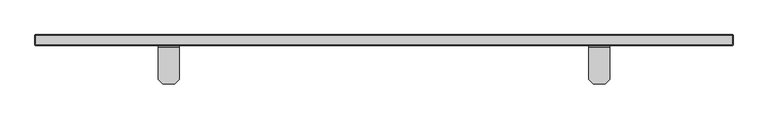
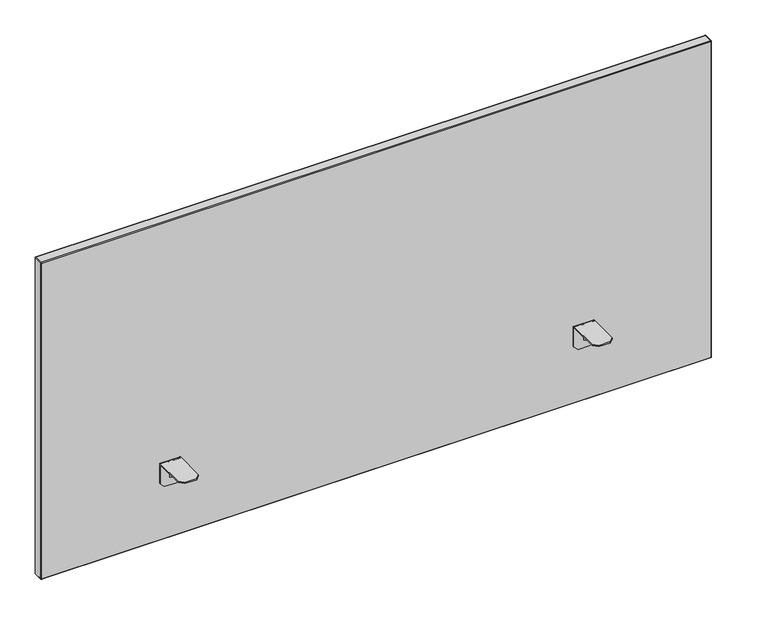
"""IFC4 building model written with IfcOpenShell, lengths in millimetres: furniture geometry, FREZZA_POP AD_Screen-for desk_Fabric : W1600 mm Structure_ZGBI - Embossed White & Finishing_D-King flex_XFGC."""

from ifc_helpers import new_model, si_unit, frame, origin, place, context, project, spatial, polyline, circle_curve, ellipse_curve, source, transform, mapped, element, save
from ifc_brep_helpers import plane_surface, cylinder_surface, revolved_surface, advanced_brep


def furniture_d0544c74(model_context):
    return source(origin(), model_context, "Body", "AdvancedBrep", [
        advanced_brep(
        [(1457.5, -8.0540949, 725.0), (1457.5, -81.55, 725.0), (1457.5, -81.55, 722.0), (1457.5, -8.0035457, 722.0), (1457.5, -6.55, 720.5464543), (1457.5, -6.55, 673.0), (1457.5, -3.55, 673.0), (1457.5, -3.55, 720.4959051), (1409.5, -8.0035457, 722.0), (1409.5, -81.55, 722.0), (1409.5, -81.55, 725.0), (1409.5, -8.0540949, 725.0), (1409.5, -3.55, 720.4959051), (1409.5, -3.55, 673.0), (1409.5, -6.55, 673.0), (1409.5, -6.55, 720.5464543), (1419.5, -91.55, 725.0), (1447.5, -91.55, 725.0), (1447.5, -3.55, 663.0), (1419.5, -3.55, 663.0), (1447.5, -6.55, 663.0), (1419.5, -6.55, 663.0), (1435.0, -6.55, 720.5464543), (1435.0, -6.55, 682.0), (1432.0, -6.55, 682.0), (1432.0, -6.55, 720.5464543), (1432.0, -8.0035457, 722.0), (1435.0, -8.0035457, 722.0), (1447.5, -91.55, 722.0), (1419.5, -91.55, 722.0), (1432.0, -69.55, 722.0), (1435.0, -69.55, 722.0)],
        [
            (0, 1),
            (1, 2),
            (2, 3),
            (3, 4, circle_curve(frame((1457.5, -8.0035457, 720.5464543), z_axis=(-1.0, 0.0, 0.0), x_axis=(0.0, -1.0, 0.0)), 1.4535457)),
            (4, 5),
            (5, 6),
            (6, 7),
            (7, 0, circle_curve(frame((1457.5, -8.0540949, 720.4959051), z_axis=(1.0, 0.0, 0.0), x_axis=(0.0, -1.0, 0.0)), 4.5040949)),
            (8, 9),
            (9, 10),
            (10, 11),
            (11, 12, circle_curve(frame((1409.5, -8.0540949, 720.4959051), z_axis=(-1.0, 0.0, 0.0), x_axis=(0.0, -1.0, 0.0)), 4.5040949)),
            (12, 13),
            (13, 14),
            (14, 15),
            (15, 8, circle_curve(frame((1409.5, -8.0035457, 720.5464543), z_axis=(1.0, 0.0, 0.0), x_axis=(0.0, -1.0, 0.0)), 1.4535457)),
            (10, 16),
            (16, 17),
            (17, 1),
            (0, 11),
            (7, 12),
            (6, 18),
            (18, 19),
            (19, 13),
            (18, 20),
            (20, 21),
            (21, 19),
            (4, 22),
            (22, 23),
            (23, 24),
            (24, 25),
            (25, 15),
            (14, 21),
            (20, 5),
            (25, 26, circle_curve(frame((1432.0, -8.0035457, 720.5464543), z_axis=(1.0, 0.0, 0.0), x_axis=(0.0, -1.0, 0.0)), 1.4535457)),
            (26, 8),
            (3, 27),
            (27, 22, circle_curve(frame((1435.0, -8.0035457, 720.5464543), z_axis=(-1.0, 0.0, 0.0), x_axis=(0.0, -1.0, 0.0)), 1.4535457)),
            (2, 28),
            (28, 29),
            (29, 9),
            (26, 30),
            (30, 31),
            (31, 27),
            (16, 29),
            (28, 17),
            (31, 23),
            (24, 30),
        ],
        [
            plane_surface(frame((1457.5, 1478.3708958, 725.0), z_axis=(1.0, 0.0, 0.0), x_axis=(0.0, 1.0, 0.0))),
            plane_surface(frame((1409.5, 1478.3708958, 725.0), z_axis=(-1.0, 0.0, 0.0), x_axis=(0.0, -1.0, 0.0))),
            plane_surface(frame((1457.5, -91.55, 725.0), z_axis=(0.0, 0.0, 1.0), x_axis=(-1.0, 0.0, 0.0))),
            cylinder_surface(frame((1409.5, -8.0540949, 720.4959051), z_axis=(1.0, 0.0, 0.0), x_axis=(0.0, -1.0, 0.0)), 4.5040949),
            plane_surface(frame((1457.5, -3.55, 720.4959051), z_axis=(0.0, 1.0, 0.0), x_axis=(-1.0, 0.0, 0.0))),
            plane_surface(frame((1457.5, -3.55, 663.0), z_axis=(0.0, 0.0, -1.0), x_axis=(-1.0, 0.0, 0.0))),
            plane_surface(frame((1457.5, -6.55, 663.0), z_axis=(0.0, -1.0, 0.0), x_axis=(-1.0, 0.0, 0.0))),
            revolved_surface(polyline([(1409.5, -9.4570914, 720.5464543), (1432.0, -9.4570914, 720.5464543)]), (1409.5, -8.0035457, 720.5464543), (-1.0, 0.0, 0.0)),
            revolved_surface(polyline([(1435.0, -9.4570914, 720.5464543), (1457.5, -9.4570914, 720.5464543)]), (1409.5, -8.0035457, 720.5464543), (-1.0, 0.0, 0.0)),
            plane_surface(frame((1457.5, -8.0035457, 722.0), z_axis=(0.0, 0.0, -1.0), x_axis=(-1.0, 0.0, 0.0))),
            plane_surface(frame((1457.5, -91.55, 722.0), z_axis=(0.0, -1.0, 0.0), x_axis=(-1.0, 0.0, 0.0))),
            plane_surface(frame((1457.5, -3.55, 673.0), z_axis=(0.7071067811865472, 0.0, -0.7071067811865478), x_axis=(0.0, -1.0, 0.0))),
            plane_surface(frame((1419.5, -3.55, 663.0), z_axis=(-0.7071067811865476, 0.0, -0.7071067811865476), x_axis=(0.0, -1.0, 0.0))),
            plane_surface(frame((1447.5, -91.55, 725.0), z_axis=(0.7071067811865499, -0.7071067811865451, 0.0), x_axis=(0.0, 0.0, -1.0))),
            plane_surface(frame((1409.5, -81.55, 725.0), z_axis=(-0.7071067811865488, -0.7071067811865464, 0.0), x_axis=(0.0, 0.0, -1.0))),
            plane_surface(frame((1435.0, -69.55, 722.0), z_axis=(1.0000000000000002, 0.0, 0.0), x_axis=(0.0, -0.8442128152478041, 0.5360081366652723))),
            plane_surface(frame((1432.0, -69.55, 722.0), z_axis=(-1.0000000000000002, 0.0, 0.0), x_axis=(0.0, 0.8442128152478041, -0.5360081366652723))),
            plane_surface(frame((1435.0, -6.55, 682.0), z_axis=(0.0, -0.5360081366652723, -0.8442128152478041), x_axis=(-1.0, 0.0, 0.0))),
        ],
        [
            (0, [[1, 2, 3, 4, 5, 6, 7, 8]]),
            (1, [[9, 10, 11, 12, 13, 14, 15, 16]]),
            (2, [[-11, 17, 18, 19, -1, 20]]),
            (3, [[21, -12, -20, -8]]),
            (4, [[-7, 22, 23, 24, -13, -21]]),
            (5, [[25, 26, 27, -23]]),
            (6, [[28, 29, 30, 31, 32, -15, 33, -26, 34, -5]]),
            (7, [[-32, 35, 36, -16]]),
            (8, [[37, 38, -28, -4]]),
            (9, [[39, 40, 41, -9, -36, 42, 43, 44, -37, -3]]),
            (10, [[45, -40, 46, -18]]),
            (11, [[-34, -25, -22, -6]]),
            (12, [[-24, -27, -33, -14]]),
            (13, [[-19, -46, -39, -2]]),
            (14, [[-41, -45, -17, -10]]),
            (15, [[-29, -38, -44, 47]]),
            (16, [[-42, -35, -31, 48]]),
            (17, [[-43, -48, -30, -47]]),
        ],
    ),
        advanced_brep(
        [(422.5, -8.0540949, 725.0), (422.5, -3.55, 720.4959051), (422.5, -3.55, 673.0), (422.5, -6.55, 673.0), (422.5, -6.55, 720.5464543), (422.5, -8.0035457, 722.0), (422.5, -81.55, 722.0), (422.5, -81.55, 725.0), (470.5, -8.0035457, 722.0), (470.5, -6.55, 720.5464543), (470.5, -6.55, 673.0), (470.5, -3.55, 673.0), (470.5, -3.55, 720.4959051), (470.5, -8.0540949, 725.0), (470.5, -81.55, 725.0), (470.5, -81.55, 722.0), (432.5, -91.55, 725.0), (460.5, -91.55, 725.0), (460.5, -3.55, 663.0), (432.5, -3.55, 663.0), (460.5, -6.55, 663.0), (432.5, -6.55, 663.0), (448.0, -6.55, 720.5464543), (448.0, -6.55, 682.0), (445.0, -6.55, 682.0), (445.0, -6.55, 720.5464543), (445.0, -8.0035457, 722.0), (448.0, -8.0035457, 722.0), (445.0, -69.55, 722.0), (448.0, -69.55, 722.0), (460.5, -91.55, 722.0), (432.5, -91.55, 722.0)],
        [
            (0, 1, circle_curve(frame((422.5, -8.0540949, 720.4959051), z_axis=(-1.0, 0.0, 0.0), x_axis=(0.0, -1.0, 0.0)), 4.5040949)),
            (1, 2),
            (2, 3),
            (3, 4),
            (4, 5, circle_curve(frame((422.5, -8.0035457, 720.5464543), z_axis=(1.0, 0.0, 0.0), x_axis=(0.0, -1.0, 0.0)), 1.4535457)),
            (5, 6),
            (6, 7),
            (7, 0),
            (8, 9, circle_curve(frame((470.5, -8.0035457, 720.5464543), z_axis=(-1.0, 0.0, 0.0), x_axis=(0.0, -1.0, 0.0)), 1.4535457)),
            (9, 10),
            (10, 11),
            (11, 12),
            (12, 13, circle_curve(frame((470.5, -8.0540949, 720.4959051), z_axis=(1.0, 0.0, 0.0), x_axis=(0.0, -1.0, 0.0)), 4.5040949)),
            (13, 14),
            (14, 15),
            (15, 8),
            (13, 0),
            (7, 16),
            (16, 17),
            (17, 14),
            (12, 1),
            (11, 18),
            (18, 19),
            (19, 2),
            (18, 20),
            (20, 21),
            (21, 19),
            (3, 21),
            (20, 10),
            (9, 22),
            (22, 23),
            (23, 24),
            (24, 25),
            (25, 4),
            (25, 26, circle_curve(frame((445.0, -8.0035457, 720.5464543), z_axis=(1.0, 0.0, 0.0), x_axis=(0.0, -1.0, 0.0)), 1.4535457)),
            (26, 5),
            (8, 27),
            (27, 22, circle_curve(frame((448.0, -8.0035457, 720.5464543), z_axis=(-1.0, 0.0, 0.0), x_axis=(0.0, -1.0, 0.0)), 1.4535457)),
            (26, 28),
            (28, 29),
            (29, 27),
            (15, 30),
            (30, 31),
            (31, 6),
            (16, 31),
            (30, 17),
            (24, 28),
            (29, 23),
        ],
        [
            plane_surface(frame((422.5, 1478.3708958, 725.0), z_axis=(-1.0, 0.0, 0.0), x_axis=(0.0, 1.0, 0.0))),
            plane_surface(frame((470.5, 1478.3708958, 725.0), z_axis=(1.0, 0.0, 0.0), x_axis=(0.0, -1.0, 0.0))),
            plane_surface(frame((422.5, -91.55, 725.0), z_axis=(0.0, 0.0, 1.0), x_axis=(1.0, 0.0, 0.0))),
            cylinder_surface(frame((470.5, -8.0540949, 720.4959051), z_axis=(-1.0, 0.0, 0.0), x_axis=(0.0, -1.0, 0.0)), 4.5040949),
            plane_surface(frame((422.5, -3.55, 720.4959051), z_axis=(0.0, 1.0, 0.0), x_axis=(1.0, 0.0, 0.0))),
            plane_surface(frame((422.5, -3.55, 663.0), z_axis=(0.0, 0.0, -1.0), x_axis=(1.0, 0.0, 0.0))),
            plane_surface(frame((422.5, -6.55, 663.0), z_axis=(0.0, -1.0, 0.0), x_axis=(1.0, 0.0, 0.0))),
            revolved_surface(polyline([(445.0, -9.4570914, 720.5464543), (422.5, -9.4570914, 720.5464543)]), (470.5, -8.0035457, 720.5464543), (1.0, 0.0, 0.0)),
            revolved_surface(polyline([(470.5, -9.4570914, 720.5464543), (448.0, -9.4570914, 720.5464543)]), (470.5, -8.0035457, 720.5464543), (1.0, 0.0, 0.0)),
            plane_surface(frame((422.5, -8.0035457, 722.0), z_axis=(0.0, 0.0, -1.0), x_axis=(1.0, 0.0, 0.0))),
            plane_surface(frame((422.5, -91.55, 722.0), z_axis=(0.0, -1.0, 0.0), x_axis=(1.0, 0.0, 0.0))),
            plane_surface(frame((422.5, -3.55, 673.0), z_axis=(-0.7071067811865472, 0.0, -0.7071067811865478), x_axis=(0.0, -1.0, 0.0))),
            plane_surface(frame((460.5, -3.55, 663.0), z_axis=(0.7071067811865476, 0.0, -0.7071067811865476), x_axis=(0.0, -1.0, 0.0))),
            plane_surface(frame((432.5, -91.55, 725.0), z_axis=(-0.7071067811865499, -0.7071067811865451, 0.0), x_axis=(0.0, 0.0, -1.0))),
            plane_surface(frame((470.5, -81.55, 725.0), z_axis=(0.7071067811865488, -0.7071067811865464, 0.0), x_axis=(0.0, 0.0, -1.0))),
            plane_surface(frame((445.0, -69.55, 722.0), z_axis=(-1.0000000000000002, 0.0, 0.0), x_axis=(0.0, -0.8442128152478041, 0.5360081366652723))),
            plane_surface(frame((448.0, -69.55, 722.0), z_axis=(1.0000000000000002, 0.0, 0.0), x_axis=(0.0, 0.8442128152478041, -0.5360081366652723))),
            plane_surface(frame((445.0, -6.55, 682.0), z_axis=(0.0, -0.5360081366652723, -0.8442128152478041), x_axis=(1.0, 0.0, 0.0))),
        ],
        [
            (0, [[1, 2, 3, 4, 5, 6, 7, 8]]),
            (1, [[9, 10, 11, 12, 13, 14, 15, 16]]),
            (2, [[17, -8, 18, 19, 20, -14]]),
            (3, [[-1, -17, -13, 21]]),
            (4, [[-21, -12, 22, 23, 24, -2]]),
            (5, [[-23, 25, 26, 27]]),
            (6, [[-4, 28, -26, 29, -10, 30, 31, 32, 33, 34]]),
            (7, [[-5, -34, 35, 36]]),
            (8, [[-9, 37, 38, -30]]),
            (9, [[-6, -36, 39, 40, 41, -37, -16, 42, 43, 44]]),
            (10, [[-19, 45, -43, 46]]),
            (11, [[-3, -24, -27, -28]]),
            (12, [[-11, -29, -25, -22]]),
            (13, [[-7, -44, -45, -18]]),
            (14, [[-15, -20, -46, -42]]),
            (15, [[47, -39, -35, -33]]),
            (16, [[48, -31, -38, -41]]),
            (17, [[-47, -32, -48, -40]]),
        ],
    ),
        advanced_brep(
        [(1738.0, 21.45, 1326.0), (1738.0, 21.45, 530.0), (142.0, 21.45, 530.0), (142.0, 21.45, 1326.0), (1738.0, -3.55, 530.0), (1738.0, -3.55, 1326.0), (142.0, -3.55, 1326.0), (142.0, -3.55, 530.0), (1738.0, -1.55, 528.0), (142.0, -1.55, 528.0), (142.0, 4.45, 528.0), (1738.0, 4.45, 528.0), (142.0, 19.45, 528.0), (1738.0, 19.45, 528.0), (1738.0, 13.45, 528.0), (142.0, 13.45, 528.0), (140.0, 19.45, 530.0), (140.0, -1.55, 530.0), (140.0, -1.55, 1326.0), (140.0, 19.45, 1326.0), (142.0, 19.45, 1328.0), (142.0, -1.55, 1328.0), (1738.0, -1.55, 1328.0), (1738.0, 19.45, 1328.0), (1740.0, 19.45, 1326.0), (1740.0, -1.55, 1326.0), (1740.0, -1.55, 530.0), (1740.0, 19.45, 530.0), (140.5857864, 20.8642136, 1327.4142136), (140.5857864, -2.9642136, 1327.4142136), (140.5857864, 20.8642136, 528.5857864), (140.5857864, -2.9642136, 528.5857864), (1739.4142136, 20.8642136, 1327.4142136), (1739.4142136, -2.9642136, 1327.4142136), (1739.4142136, -2.9642136, 528.5857864), (1739.4142136, 20.8642136, 528.5857864), (142.0, 4.45, 532.0), (142.0, 13.45, 532.0), (1738.0, 4.45, 532.0), (1738.0, 13.45, 532.0)],
        [
            (0, 1),
            (1, 2),
            (2, 3),
            (3, 0),
            (4, 5),
            (5, 6),
            (6, 7),
            (7, 4),
            (8, 9),
            (9, 10),
            (10, 11),
            (11, 8),
            (12, 13),
            (13, 14),
            (14, 15),
            (15, 12),
            (16, 17),
            (17, 18),
            (18, 19),
            (19, 16),
            (20, 21),
            (21, 22),
            (22, 23),
            (23, 20),
            (24, 25),
            (25, 26),
            (26, 27),
            (27, 24),
            (20, 28, ellipse_curve(frame((142.0, 19.45, 1326.0), z_axis=(-0.7071067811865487, -0.7071067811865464, 0.0), x_axis=(-0.7071067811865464, 0.7071067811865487, 0.0)), 2.8284271, 2.0)),
            (28, 19, ellipse_curve(frame((142.0, 19.45, 1326.0), z_axis=(0.0, -0.7071067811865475, 0.7071067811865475), x_axis=(0.0, 0.7071067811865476, 0.7071067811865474)), 2.8284271, 2.0)),
            (18, 29, ellipse_curve(frame((142.0, -1.55, 1326.0), z_axis=(0.0, 0.7071067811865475, 0.7071067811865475), x_axis=(0.0, 0.7071067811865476, -0.7071067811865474)), 2.8284271, 2.0)),
            (29, 21, ellipse_curve(frame((142.0, -1.55, 1326.0), z_axis=(-0.7071067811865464, 0.7071067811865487, 0.0), x_axis=(0.7071067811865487, 0.7071067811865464, 0.0)), 2.8284271, 2.0)),
            (16, 30, ellipse_curve(frame((142.0, 19.45, 530.0), z_axis=(0.0, -0.7071067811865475, -0.7071067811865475), x_axis=(0.0, 0.7071067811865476, -0.7071067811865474)), 2.8284271, 2.0)),
            (30, 12, ellipse_curve(frame((142.0, 19.45, 530.0), z_axis=(-0.7071067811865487, -0.7071067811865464, 0.0), x_axis=(-0.7071067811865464, 0.7071067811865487, 0.0)), 2.8284271, 2.0)),
            (15, 10),
            (9, 31, ellipse_curve(frame((142.0, -1.55, 530.0), z_axis=(-0.7071067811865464, 0.7071067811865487, 0.0), x_axis=(0.7071067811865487, 0.7071067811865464, 0.0)), 2.8284271, 2.0)),
            (31, 17, ellipse_curve(frame((142.0, -1.55, 530.0), z_axis=(0.0, 0.7071067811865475, -0.7071067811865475), x_axis=(0.0, 0.7071067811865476, 0.7071067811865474)), 2.8284271, 2.0)),
            (24, 32, ellipse_curve(frame((1738.0, 19.45, 1326.0), z_axis=(0.0, -0.7071067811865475, 0.7071067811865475), x_axis=(0.0, 0.7071067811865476, 0.7071067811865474)), 2.8284271, 2.0)),
            (32, 23, ellipse_curve(frame((1738.0, 19.45, 1326.0), z_axis=(0.7071067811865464, -0.7071067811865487, 0.0), x_axis=(0.7071067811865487, 0.7071067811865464, 0.0)), 2.8284271, 2.0)),
            (22, 33, ellipse_curve(frame((1738.0, -1.55, 1326.0), z_axis=(0.7071067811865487, 0.7071067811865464, 0.0), x_axis=(-0.7071067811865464, 0.7071067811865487, 0.0)), 2.8284271, 2.0)),
            (33, 25, ellipse_curve(frame((1738.0, -1.55, 1326.0), z_axis=(0.0, 0.7071067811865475, 0.7071067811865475), x_axis=(0.0, 0.7071067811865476, -0.7071067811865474)), 2.8284271, 2.0)),
            (26, 34, ellipse_curve(frame((1738.0, -1.55, 530.0), z_axis=(0.0, 0.7071067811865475, -0.7071067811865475), x_axis=(0.0, 0.7071067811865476, 0.7071067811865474)), 2.8284271, 2.0)),
            (34, 8, ellipse_curve(frame((1738.0, -1.55, 530.0), z_axis=(0.7071067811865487, 0.7071067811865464, 0.0), x_axis=(-0.7071067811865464, 0.7071067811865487, 0.0)), 2.8284271, 2.0)),
            (11, 14),
            (13, 35, ellipse_curve(frame((1738.0, 19.45, 530.0), z_axis=(0.7071067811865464, -0.7071067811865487, 0.0), x_axis=(0.7071067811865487, 0.7071067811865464, 0.0)), 2.8284271, 2.0)),
            (35, 27, ellipse_curve(frame((1738.0, 19.45, 530.0), z_axis=(0.0, -0.7071067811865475, -0.7071067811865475), x_axis=(0.0, 0.7071067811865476, -0.7071067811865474)), 2.8284271, 2.0)),
            (4, 34, ellipse_curve(frame((1738.0, -1.55, 530.0), z_axis=(0.7071067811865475, 0.0, 0.7071067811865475), x_axis=(0.7071067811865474, 0.0, -0.7071067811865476)), 2.8284271, 2.0)),
            (33, 5, ellipse_curve(frame((1738.0, -1.55, 1326.0), z_axis=(0.7071067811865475, 0.0, -0.7071067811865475), x_axis=(-0.7071067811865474, 0.0, -0.7071067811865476)), 2.8284271, 2.0)),
            (35, 1, ellipse_curve(frame((1738.0, 19.45, 530.0), z_axis=(0.7071067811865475, 0.0, 0.7071067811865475), x_axis=(0.7071067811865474, 0.0, -0.7071067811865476)), 2.8284271, 2.0)),
            (0, 32, ellipse_curve(frame((1738.0, 19.45, 1326.0), z_axis=(0.7071067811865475, 0.0, -0.7071067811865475), x_axis=(-0.7071067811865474, 0.0, -0.7071067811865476)), 2.8284271, 2.0)),
            (7, 31, ellipse_curve(frame((142.0, -1.55, 530.0), z_axis=(0.7071067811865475, 0.0, -0.7071067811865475), x_axis=(-0.7071067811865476, 0.0, -0.7071067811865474)), 2.8284271, 2.0)),
            (30, 2, ellipse_curve(frame((142.0, 19.45, 530.0), z_axis=(0.7071067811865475, 0.0, -0.7071067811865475), x_axis=(-0.7071067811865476, 0.0, -0.7071067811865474)), 2.8284271, 2.0)),
            (6, 29, ellipse_curve(frame((142.0, -1.55, 1326.0), z_axis=(-0.7071067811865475, 0.0, -0.7071067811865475), x_axis=(-0.7071067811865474, 0.0, 0.7071067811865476)), 2.8284271, 2.0)),
            (28, 3, ellipse_curve(frame((142.0, 19.45, 1326.0), z_axis=(-0.7071067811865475, 0.0, -0.7071067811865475), x_axis=(-0.7071067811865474, 0.0, 0.7071067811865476)), 2.8284271, 2.0)),
            (36, 10),
            (15, 37),
            (37, 36),
            (38, 39),
            (39, 14),
            (11, 38),
            (37, 39),
            (38, 36),
        ],
        [
            plane_surface(frame((142.0, 21.45, 528.0), z_axis=(0.0, 1.0, 0.0), x_axis=(-1.0, 0.0, 0.0))),
            plane_surface(frame((142.0, -3.55, 528.0), z_axis=(0.0, -1.0, 0.0), x_axis=(1.0, 0.0, 0.0))),
            plane_surface(frame((1738.0, 21.45, 528.0), z_axis=(0.0, 0.0, -1.0), x_axis=(0.0, -1.0, 0.0))),
            plane_surface(frame((140.0, 21.45, 530.0), z_axis=(-1.0, 0.0, 0.0), x_axis=(0.0, -1.0, 0.0))),
            plane_surface(frame((142.0, 21.45, 1328.0), z_axis=(0.0, 0.0, 1.0), x_axis=(0.0, -1.0, 0.0))),
            plane_surface(frame((1740.0, 21.45, 1326.0), z_axis=(1.0, 0.0, 0.0), x_axis=(0.0, -1.0, 0.0))),
            cylinder_surface(frame((142.0, -3.55, 1326.0), z_axis=(0.0, 1.0, 0.0), x_axis=(-1.0, 0.0, 0.0)), 2.0),
            cylinder_surface(frame((142.0, -3.55, 530.0), z_axis=(0.0, 1.0, 0.0), x_axis=(-1.0, 0.0, 0.0)), 2.0),
            cylinder_surface(frame((1738.0, -3.55, 1326.0), z_axis=(0.0, 1.0, 0.0), x_axis=(-1.0, 0.0, 0.0)), 2.0),
            cylinder_surface(frame((1738.0, -3.55, 530.0), z_axis=(0.0, 1.0, 0.0), x_axis=(-1.0, 0.0, 0.0)), 2.0),
            cylinder_surface(frame((1738.0, -1.55, 1328.0), z_axis=(0.0, 0.0, -1.0), x_axis=(-1.0, 0.0, 0.0)), 2.0),
            cylinder_surface(frame((1738.0, 19.45, 1328.0), z_axis=(0.0, 0.0, -1.0), x_axis=(-1.0, 0.0, 0.0)), 2.0),
            cylinder_surface(frame((1740.0, -1.55, 530.0), z_axis=(-1.0, 0.0, 0.0), x_axis=(0.0, 0.0, 1.0)), 2.0),
            cylinder_surface(frame((1740.0, 19.45, 530.0), z_axis=(-1.0, 0.0, 0.0), x_axis=(0.0, 0.0, 1.0)), 2.0),
            cylinder_surface(frame((142.0, -1.55, 528.0), z_axis=(0.0, 0.0, 1.0), x_axis=(1.0, 0.0, 0.0)), 2.0),
            cylinder_surface(frame((142.0, 19.45, 528.0), z_axis=(0.0, 0.0, 1.0), x_axis=(1.0, 0.0, 0.0)), 2.0),
            cylinder_surface(frame((140.0, -1.55, 1326.0), z_axis=(1.0, 0.0, 0.0), x_axis=(0.0, 0.0, -1.0)), 2.0),
            cylinder_surface(frame((140.0, 19.45, 1326.0), z_axis=(1.0, 0.0, 0.0), x_axis=(0.0, 0.0, -1.0)), 2.0),
            plane_surface(frame((142.0, 4.45, 532.0), z_axis=(1.0, 0.0, 0.0), x_axis=(0.0, 1.0, 0.0))),
            plane_surface(frame((1738.0, 4.45, 532.0), z_axis=(-1.0, 0.0, 0.0), x_axis=(0.0, -1.0, 0.0))),
            plane_surface(frame((142.0, 4.45, 532.0), z_axis=(0.0, 0.0, -1.0), x_axis=(1.0, 0.0, 0.0))),
            plane_surface(frame((142.0, 13.45, 532.0), z_axis=(0.0, -1.0, 0.0), x_axis=(1.0, 0.0, 0.0))),
            plane_surface(frame((142.0, 4.45, 528.0), z_axis=(0.0, 1.0, 0.0), x_axis=(1.0, 0.0, 0.0))),
        ],
        [
            (0, [[1, 2, 3, 4]]),
            (1, [[5, 6, 7, 8]]),
            (2, [[9, 10, 11, 12]]),
            (2, [[13, 14, 15, 16]]),
            (3, [[17, 18, 19, 20]]),
            (4, [[21, 22, 23, 24]]),
            (5, [[25, 26, 27, 28]]),
            (6, [[-21, 29, 30, -19, 31, 32]]),
            (7, [[-17, 33, 34, -16, 35, -10, 36, 37]]),
            (8, [[-25, 38, 39, -23, 40, 41]]),
            (9, [[-27, 42, 43, -12, 44, -14, 45, 46]]),
            (10, [[47, -42, -26, -41, 48, -5]]),
            (11, [[49, -1, 50, -38, -28, -46]]),
            (12, [[-47, -8, 51, -36, -9, -43]]),
            (13, [[-49, -45, -13, -34, 52, -2]]),
            (14, [[-51, -7, 53, -31, -18, -37]]),
            (15, [[-52, -33, -20, -30, 54, -3]]),
            (16, [[-53, -6, -48, -40, -22, -32]]),
            (17, [[-54, -29, -24, -39, -50, -4]]),
            (18, [[55, -35, 56, 57]]),
            (19, [[58, 59, -44, 60]]),
            (20, [[-57, 61, -58, 62]]),
            (21, [[-56, -15, -59, -61]]),
            (22, [[-55, -62, -60, -11]]),
        ],
    ),
    ])


if __name__ == "__main__":
    model = new_model("IFC4")
    model_context = context("Model", 3, world=origin())
    ifc_project = project(units=[si_unit("LENGTHUNIT", "METRE", prefix="MILLI")], contexts=[model_context])
    site = spatial("IfcSite", under=ifc_project)
    building = spatial("IfcBuilding", under=site)
    placement = place(None, origin())
    furniture_shape = furniture_d0544c74(model_context)
    element("IfcFurniture", 1, ObjectType="FREZZA_POP AD_Screen-for desk_Fabric : W1600 mm Structure_ZGBI - Embossed White & Finishing_D-King flex_XFGC", at=placement, inside=building, context=model_context, shape_type="MappedRepresentation", body=[
        mapped(furniture_shape, transform((0.0, 0.0, 0.0), x_axis=(1.0, 0.0, 0.0), y_axis=(0.0, 1.0, 0.0), z_axis=(0.0, 0.0, 1.0))),
    ])
    save(model, "model.ifc")
